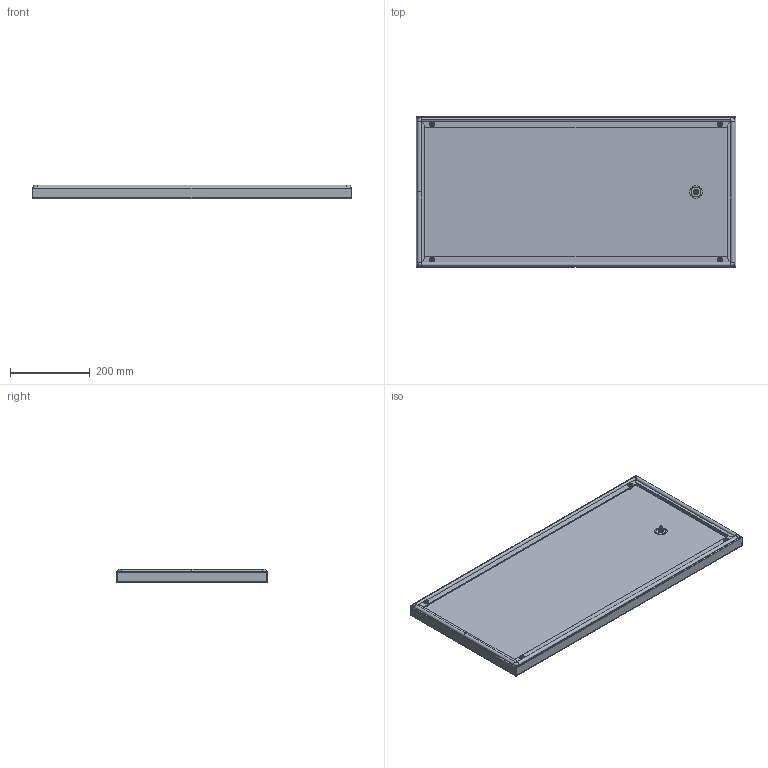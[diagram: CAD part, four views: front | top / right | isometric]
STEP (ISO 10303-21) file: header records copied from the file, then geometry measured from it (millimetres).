
FILE_DESCRIPTION (( 'STEP AP203' ), '1' );
FILE_NAME ('P 80.40-N Ïàíåëü êîíöåâàÿ íèæíåé ÷àñòè.STEP', '2025-10-02T13:31:22', ( '' ), ( '' ), 'SwSTEP 2.0', 'SolidWorks 2019', '' );
FILE_SCHEMA (( 'CONFIG_CONTROL_DESIGN' ));
Length unit declared in the file: millimetre
Products named in the file (4): Øïèëüêà çàçåìëåíèÿ Ì6õ17,5_˜¯¨«ìª  § §¥¬«¥­¨ï Œ6å17,5; Ãàéêà-çàêë¸ïêà Ì6; P Y.40(50)-N(D).01 Ïàíåëü êîíöåâàÿ íèæíåé ÷àñòè_P 80.40-N.01; P 80.40-N Ïàíåëü êîíöåâàÿ íèæíåé ÷àñòè
Assembly tree (6 placements, depth 2):
  P 80.40-N Ïàíåëü êîíöåâàÿ íèæíåé ÷àñòè
    P Y.40(50)-N(D).01 Ïàíåëü êîíöåâàÿ íèæíåé ÷àñòè_P 80.40-N.01
    Ãàéêà-çàêë¸ïêà Ì6  x4
    Øïèëüêà çàçåìëåíèÿ Ì6õ17,5_˜¯¨«ìª  § §¥¬«¥­¨ï Œ6å17,5
Bounding box: 800 x 377 x 34 mm (x, y, z)
Volume: 673458.6 mm3; surface area: 851455.8 mm2
Topology: 6 solids, 6 shells, 396 faces, 956 edges, 580 vertices
Faces by surface type: cylinder 188, plane 106, bspline 48, torus 48, cone 6
Entity records: 12032 total; most frequent: CARTESIAN_POINT 6392, ORIENTED_EDGE 1184, DIRECTION 927, EDGE_CURVE 592, VERTEX_POINT 355, AXIS2_PLACEMENT_3D 335, EDGE_LOOP 261, VECTOR 257
